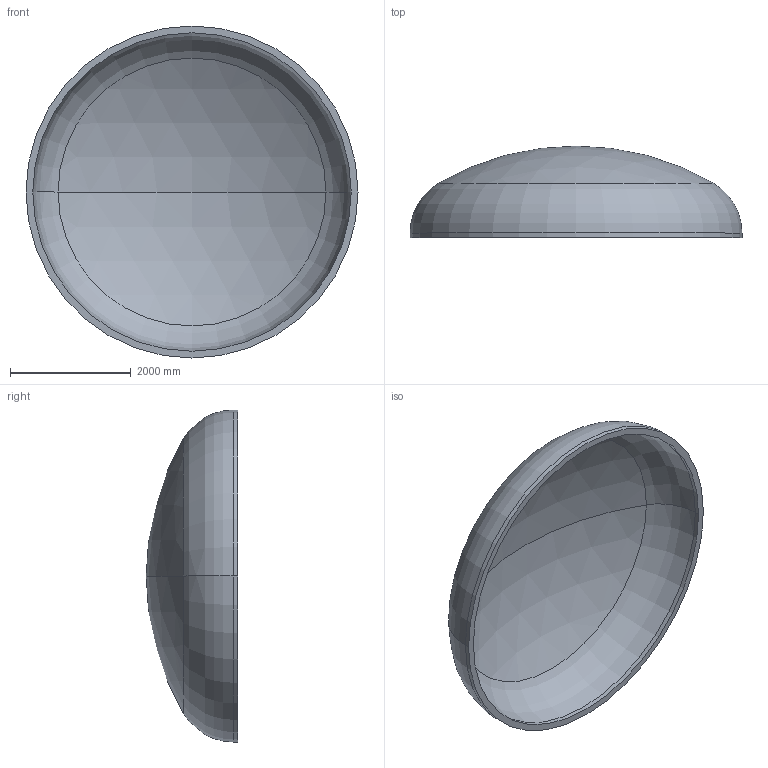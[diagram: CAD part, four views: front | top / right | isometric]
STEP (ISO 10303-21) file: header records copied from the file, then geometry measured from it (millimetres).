
FILE_DESCRIPTION (( 'STEP AP203' ), '1' );
FILE_NAME ('DIN 28013 Korbbogenform_-_Boden DIN 28013 - 5500 x 75 - I - s=112.step', '2016-07-04T10:35:21', ( '' ), ( '' ), 'SwSTEP 2.0', 'SolidWorks 2013', '' );
FILE_SCHEMA (( 'CONFIG_CONTROL_DESIGN' ));
Length unit declared in the file: millimetre
Products named in the file (1): DIN 28013 Korbbogenform_-_Boden DIN 28013 - 5500 x 75 - I - s=112
Bounding box: 5500 x 1517.28 x 5500 mm (x, y, z)
Volume: 3728388645.1 mm3; surface area: 68500429.2 mm2
Topology: 1 solids, 1 shells, 13 faces, 24 edges, 14 vertices
Faces by surface type: torus 4, cylinder 4, sphere 4, plane 1
Entity records: 407 total; most frequent: DIRECTION 72, CARTESIAN_POINT 52, ORIENTED_EDGE 48, AXIS2_PLACEMENT_3D 34, EDGE_CURVE 24, CIRCLE 20, EDGE_LOOP 14, VERTEX_POINT 14
